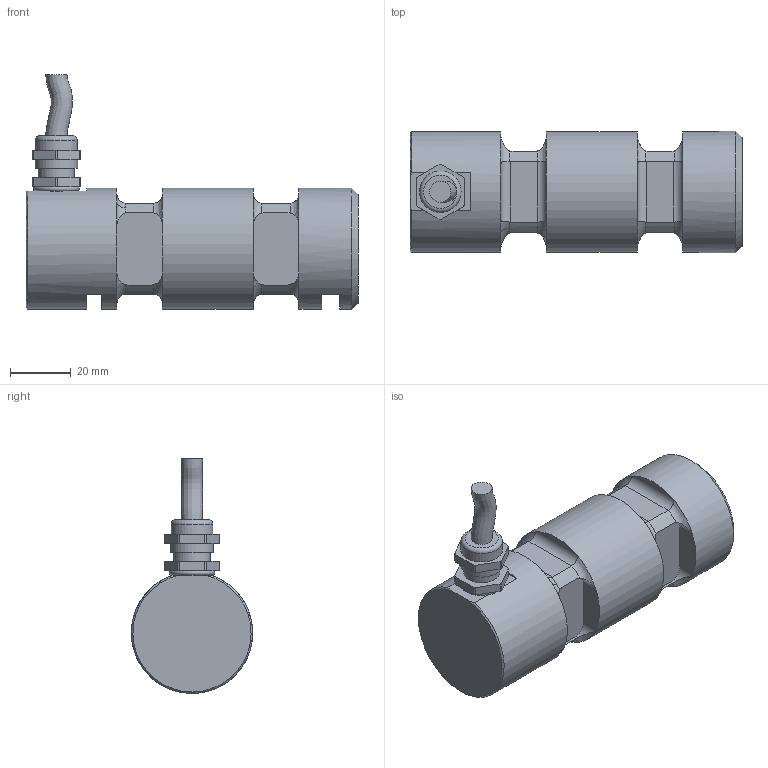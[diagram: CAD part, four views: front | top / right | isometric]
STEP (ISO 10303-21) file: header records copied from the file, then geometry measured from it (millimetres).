
FILE_DESCRIPTION(/* description */ ('Alibre Inc.'),/* implementation_level */ '2;1');
FILE_NAME(/* name */ 'export0',/* time_stamp */ '2011-08-12T16:15:09+02:00',/* author */ (''),/* organization */ (''),/* preprocessor_version */ 'ST-DEVELOPER v10',/* originating_system */ 'Alibre',/* authorisation */ '');
FILE_SCHEMA (('CONFIG_CONTROL_DESIGN'));
Length unit declared in the file: centimetre
Products named in the file (6): ID_1; ID_2; ID_3
Bounding box: 109.5 x 40 x 77.43 mm (x, y, z)
Volume: 123741.4 mm3; surface area: 21059.1 mm2
Topology: 4 solids, 4 shells, 143 faces, 352 edges, 222 vertices
Faces by surface type: plane 65, cylinder 55, torus 19, cone 3, bspline 1
Full cylindrical faces by diameter (mm): 7 x3, 10.376 x1, 12 x2, 13.7 x1, 14 x1, 40 x3
Entity records: 8536 total; most frequent: CARTESIAN_POINT 5098, ORIENTED_EDGE 656, DIRECTION 450, EDGE_CURVE 328, VERTEX_POINT 216, AXIS2_PLACEMENT_3D 188, FACE_BOUND 168, EDGE_LOOP 167
